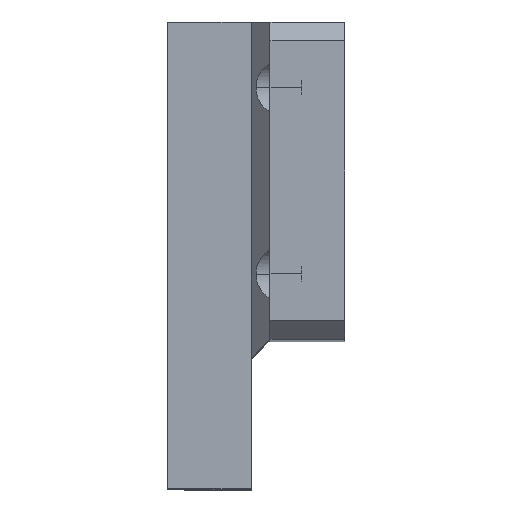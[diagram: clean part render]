
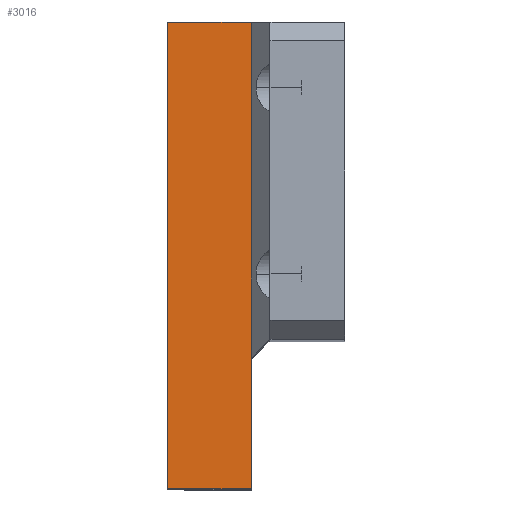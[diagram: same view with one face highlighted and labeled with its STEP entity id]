
A CAD part, top view. The second image highlights one B-rep face of the part: STEP entity #3016.
In plain terms, the highlighted planar face has unit normal (0, 0, 1).
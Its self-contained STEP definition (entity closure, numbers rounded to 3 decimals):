
#72 = DIRECTION ( 'NONE',  ( 0., 0., -1. ) ) ;
#107 = VECTOR ( 'NONE', #144, 1000. ) ;
#144 = DIRECTION ( 'NONE',  ( 0., 1., 0. ) ) ;
#258 = FACE_OUTER_BOUND ( 'NONE', #1637, .T. ) ;
#366 = VERTEX_POINT ( 'NONE', #2812 ) ;
#426 = DIRECTION ( 'NONE',  ( 0., -1., 0. ) ) ;
#536 = LINE ( 'NONE', #591, #1785 ) ;
#580 = VECTOR ( 'NONE', #1029, 1000. ) ;
#591 = CARTESIAN_POINT ( 'NONE',  ( 4.5, 25., 37.9 ) ) ;
#615 = CARTESIAN_POINT ( 'NONE',  ( 4.5, 25., 37.9 ) ) ;
#655 = LINE ( 'NONE', #615, #107 ) ;
#667 = LINE ( 'NONE', #3038, #1675 ) ;
#761 = CARTESIAN_POINT ( 'NONE',  ( 4.5, 25., 37.9 ) ) ;
#799 = CARTESIAN_POINT ( 'NONE',  ( 4.5, -11., 37.9 ) ) ;
#915 = CARTESIAN_POINT ( 'NONE',  ( 4.5, -25., 37.9 ) ) ;
#917 = EDGE_CURVE ( 'NONE', #1495, #366, #667, .T. ) ;
#1029 = DIRECTION ( 'NONE',  ( -1., 0., 0. ) ) ;
#1187 = LINE ( 'NONE', #2227, #580 ) ;
#1222 = VERTEX_POINT ( 'NONE', #915 ) ;
#1237 = ORIENTED_EDGE ( 'NONE', *, *, #1931, .F. ) ;
#1275 = LINE ( 'NONE', #761, #2624 ) ;
#1454 = DIRECTION ( 'NONE',  ( 0., 1., 0. ) ) ;
#1495 = VERTEX_POINT ( 'NONE', #2037 ) ;
#1602 = AXIS2_PLACEMENT_3D ( 'NONE', #2516, #72, #1454 ) ;
#1637 = EDGE_LOOP ( 'NONE', ( #1936, #2260, #2282, #2608, #1237 ) ) ;
#1675 = VECTOR ( 'NONE', #426, 1000. ) ;
#1785 = VECTOR ( 'NONE', #2434, 1000. ) ;
#1931 = EDGE_CURVE ( 'NONE', #1222, #366, #1187, .T. ) ;
#1936 = ORIENTED_EDGE ( 'NONE', *, *, #3035, .F. ) ;
#2010 = EDGE_CURVE ( 'NONE', #2891, #2947, #655, .T. ) ;
#2037 = CARTESIAN_POINT ( 'NONE',  ( -4.5, 25., 37.9 ) ) ;
#2142 = EDGE_CURVE ( 'NONE', #2947, #1495, #536, .T. ) ;
#2227 = CARTESIAN_POINT ( 'NONE',  ( 4.5, -25., 37.9 ) ) ;
#2260 = ORIENTED_EDGE ( 'NONE', *, *, #2010, .T. ) ;
#2282 = ORIENTED_EDGE ( 'NONE', *, *, #2142, .T. ) ;
#2434 = DIRECTION ( 'NONE',  ( -1., 0., 0. ) ) ;
#2481 = PLANE ( 'NONE',  #1602 ) ;
#2516 = CARTESIAN_POINT ( 'NONE',  ( 4.5, 25., 37.9 ) ) ;
#2552 = CARTESIAN_POINT ( 'NONE',  ( 4.5, 25., 37.9 ) ) ;
#2608 = ORIENTED_EDGE ( 'NONE', *, *, #917, .T. ) ;
#2624 = VECTOR ( 'NONE', #2726, 1000. ) ;
#2726 = DIRECTION ( 'NONE',  ( 0., -1., 0. ) ) ;
#2812 = CARTESIAN_POINT ( 'NONE',  ( -4.5, -25., 37.9 ) ) ;
#2891 = VERTEX_POINT ( 'NONE', #799 ) ;
#2947 = VERTEX_POINT ( 'NONE', #2552 ) ;
#3016 = ADVANCED_FACE ( 'NONE', ( #258 ), #2481, .F. ) ;
#3035 = EDGE_CURVE ( 'NONE', #2891, #1222, #1275, .T. ) ;
#3038 = CARTESIAN_POINT ( 'NONE',  ( -4.5, 25., 37.9 ) ) ;
